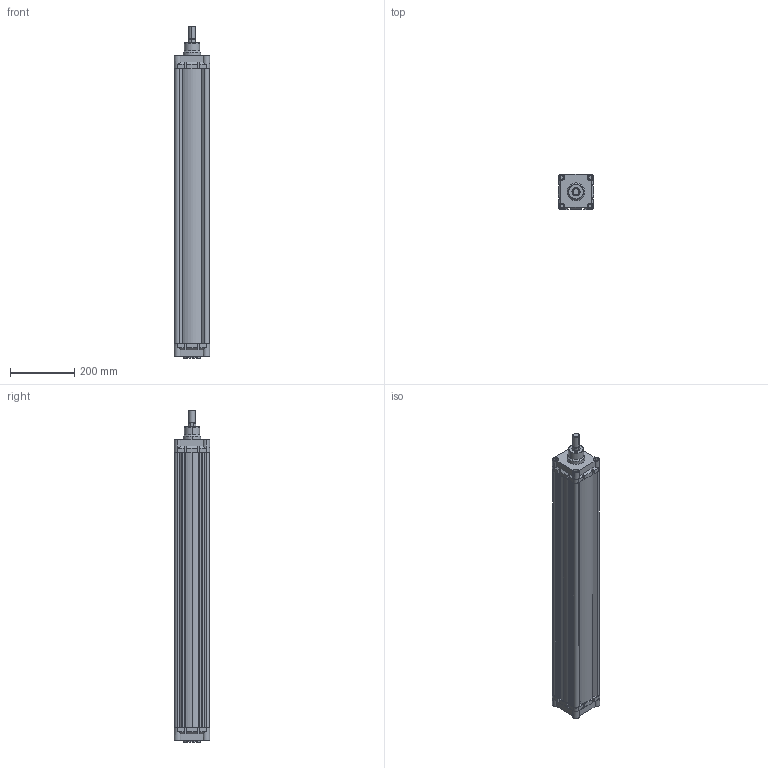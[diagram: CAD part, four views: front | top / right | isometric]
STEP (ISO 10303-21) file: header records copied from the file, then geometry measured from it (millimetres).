
FILE_DESCRIPTION (( 'STEP AP214' ), '1' );
FILE_NAME ('RIC100_800_MY_WEB.STEP', '2020-09-10T17:51:39', ( '' ), ( '' ), 'SwSTEP 2.0', 'SolidWorks 2018', '' );
FILE_SCHEMA (( 'AUTOMOTIVE_DESIGN' ));
Length unit declared in the file: millimetre
Products named in the file (6): RIC_100_BORU_WEB; 25_K_MIL_WEB; rýc100arkakapak; M12 KAPAK CÝVATASI; RIC100_800_MY_WEB; RIC_100_ON_KAPAK_WEB
Assembly tree (12 placements, depth 2):
  RIC100_800_MY_WEB
    RIC_100_ON_KAPAK_WEB
    RIC_100_BORU_WEB
    rýc100arkakapak
    M12 KAPAK CÝVATASI  x8
    25_K_MIL_WEB
Bounding box: 110 x 110 x 1034 mm (x, y, z)
Volume: 3268907.3 mm3; surface area: 955983.2 mm2
Topology: 12 solids, 12 shells, 717 faces, 1793 edges, 1155 vertices
Faces by surface type: plane 362, cylinder 209, bspline 81, cone 59, torus 6
Entity records: 22464 total; most frequent: CARTESIAN_POINT 7800, ORIENTED_EDGE 2746, DIRECTION 2408, EDGE_CURVE 1373, VERTEX_POINT 903, LINE 826, VECTOR 826, AXIS2_PLACEMENT_3D 791
